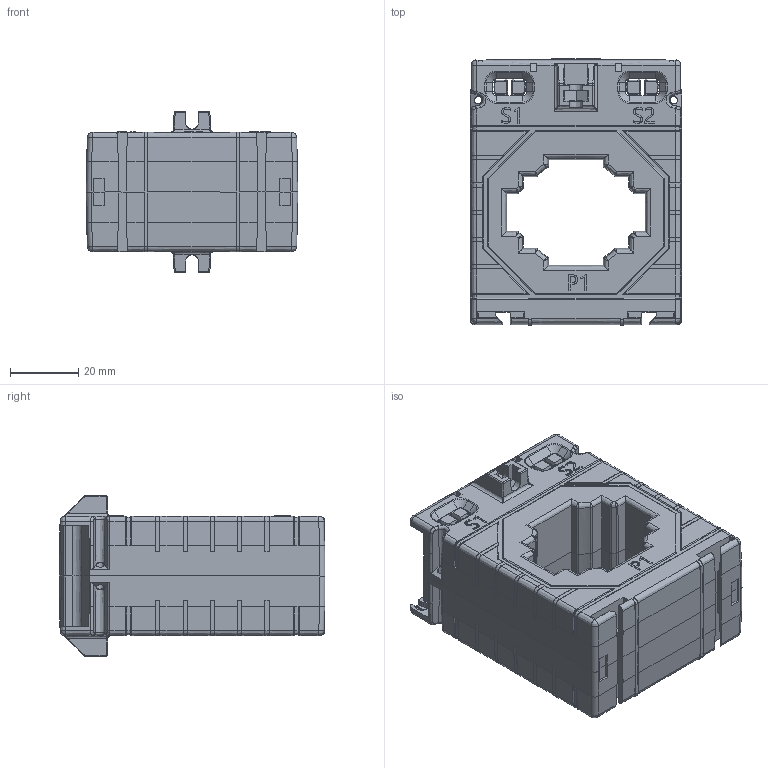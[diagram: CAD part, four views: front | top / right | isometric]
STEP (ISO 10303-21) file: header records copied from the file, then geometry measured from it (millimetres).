
FILE_DESCRIPTION (( 'STEP AP203' ), '1' );
FILE_NAME ('CT40.STEP', '2022-12-02T13:44:56', ( '' ), ( '' ), 'SwSTEP 2.0', 'SolidWorks 2022', '' );
FILE_SCHEMA (( 'CONFIG_CONTROL_DESIGN' ));
Length unit declared in the file: millimetre
Products named in the file (1): CT40
Bounding box: 62 x 78 x 47 mm (x, y, z)
Surface area: 26377.4 mm2 (no closed solid volume)
Topology: 0 solids, 7 shells, 1320 faces, 3603 edges, 2201 vertices
Faces by surface type: plane 706, bspline 470, cylinder 88, cone 40, torus 16
Entity records: 53085 total; most frequent: CARTESIAN_POINT 24243, ORIENTED_EDGE 6976, DIRECTION 4473, EDGE_CURVE 3555, LINE 2383, VECTOR 2383, VERTEX_POINT 2201, EDGE_LOOP 1360
